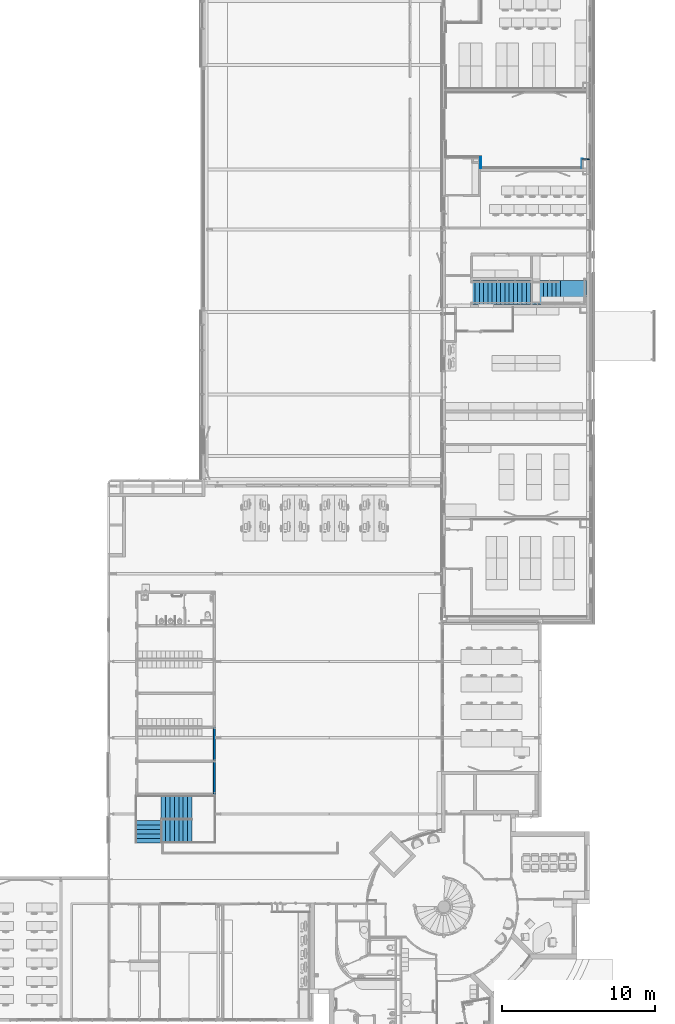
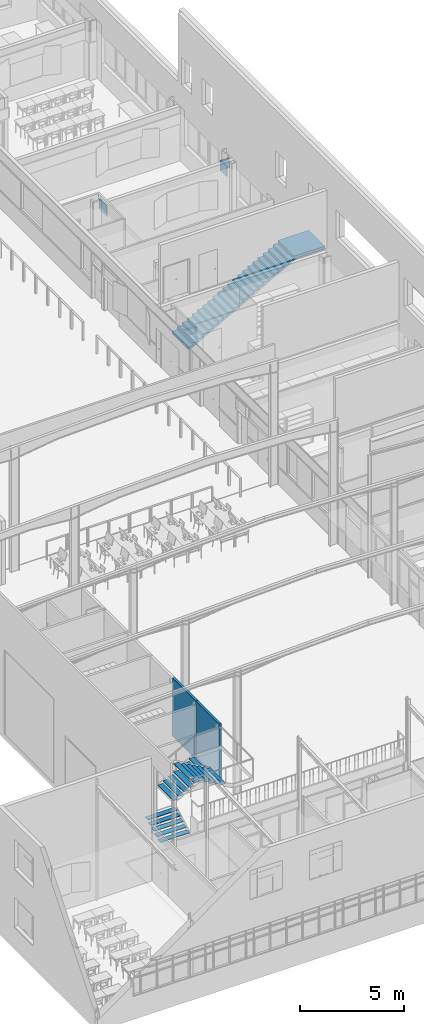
# One storey, part 68 of 137: 5 walls, 3 stair flights, 1 stair, 2 elements without a shape of their own.
"""IFC2X3 building model written with IfcOpenShell, lengths in centimetres."""

from ifc_helpers import new_model, entity, si_unit, converted_unit, derived_unit, direction, frame, frame_2d, origin, origin_2d_with_axis, place, context, subcontext, project, spatial, polyline, rectangle, outline, extrude, faceted_brep, material, layer, layer_set, layer_usage, type_object, element, aggregate, save


model = new_model("IFC2X3")

# Units and contexts
model_context = context("Model", 3, precision=0.001, world=origin(), true_north=direction((6.12303176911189e-17, 1.0)))
body_context = subcontext(model_context, "Body", "Model", "MODEL_VIEW")
ifc_project = project(units=[si_unit("LENGTHUNIT", "METRE", prefix="CENTI"), si_unit("AREAUNIT", "SQUARE_METRE"), si_unit("VOLUMEUNIT", "CUBIC_METRE"), converted_unit("PLANEANGLEUNIT", "DEGREE", entity("IfcRatioMeasure", 0.0174532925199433), si_unit("PLANEANGLEUNIT", "RADIAN"), dimensions=[0, 0, 0, 0, 0, 0, 0]), si_unit("MASSUNIT", "GRAM", prefix="KILO"), si_unit("TIMEUNIT", "SECOND"), si_unit("FREQUENCYUNIT", "HERTZ"), si_unit("THERMODYNAMICTEMPERATUREUNIT", "DEGREE_CELSIUS"), derived_unit("THERMALTRANSMITTANCEUNIT", [(si_unit("MASSUNIT", "GRAM", prefix="KILO"), 1), (si_unit("THERMODYNAMICTEMPERATUREUNIT", "KELVIN"), -1), (si_unit("TIMEUNIT", "SECOND"), -3)]), derived_unit("VOLUMETRICFLOWRATEUNIT", [(si_unit("LENGTHUNIT", "METRE"), 3), (si_unit("TIMEUNIT", "SECOND"), -1)]), si_unit("ELECTRICCURRENTUNIT", "AMPERE"), si_unit("ELECTRICVOLTAGEUNIT", "VOLT"), si_unit("POWERUNIT", "WATT"), si_unit("FORCEUNIT", "NEWTON", prefix="KILO"), si_unit("ILLUMINANCEUNIT", "LUX"), si_unit("LUMINOUSFLUXUNIT", "LUMEN"), si_unit("LUMINOUSINTENSITYUNIT", "CANDELA"), derived_unit("USERDEFINED", [(si_unit("MASSUNIT", "GRAM", prefix="KILO"), -1), (si_unit("LENGTHUNIT", "METRE"), -2), (si_unit("TIMEUNIT", "SECOND"), 3), (si_unit("LUMINOUSFLUXUNIT", "LUMEN"), 1)]), derived_unit("LINEARVELOCITYUNIT", [(si_unit("LENGTHUNIT", "METRE"), 1), (si_unit("TIMEUNIT", "SECOND"), -1)]), si_unit("PRESSUREUNIT", "PASCAL"), derived_unit("USERDEFINED", [(si_unit("LENGTHUNIT", "METRE"), -2), (si_unit("MASSUNIT", "GRAM", prefix="KILO"), 1), (si_unit("TIMEUNIT", "SECOND"), -2)])], contexts=[model_context])

# Site, building, storey
site_placement = place(None, frame((8.62739174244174, -249.285249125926, 0.0)))
site = spatial("IfcSite", under=ifc_project, at=site_placement, Name="Default", CompositionType="ELEMENT")
building_placement = place(site_placement, origin())
building = spatial("IfcBuilding", under=site, at=building_placement, CompositionType="ELEMENT")
storey_placement = place(building_placement, origin())
storey = spatial("IfcBuildingStorey", under=building, at=storey_placement, Name="RDC", CompositionType="ELEMENT", Elevation=-8.82465566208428e-11)

# Walls
ifc_material_1 = material(Name="Tôle/Doublage")
ifc_layer_1 = layer(ifc_material_1, 2.0)
ifc_material_2 = material(Name="Laine minérale")
ifc_layer_2 = layer(ifc_material_2, 9.5)
ifc_material_3 = material(Name="Plâtre_MU")
ifc_layer_3 = layer(ifc_material_3, 1.25)
ifc_layer_set_1 = layer_set([ifc_layer_1, ifc_layer_2, ifc_layer_3], Name="Mur de base:PLA 1.25 + ISO 9.5 + MET 4")
wall_type_1 = type_object("IfcWallType", Name="Mur de base:PLA 1.25 + ISO 9.5 + MET 4", PredefinedType="STANDARD", material=ifc_layer_set_1)
wall_1_placement = place(storey_placement, frame((1539.52982780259, 1708.48020806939, 0.0), z_axis=(0.0, 0.0, 1.0), x_axis=(0.0, -1.0, 0.0)))
element("IfcWall", 1, at=wall_1_placement, inside=storey, type_object=wall_type_1, Name="Mur de base:PLA 1.25 + ISO 9.5 + MET 4", ObjectType="Mur de base:PLA 1.25 + ISO 9.5 + MET 4", context=body_context, shape_type="Brep", body=[
    faceted_brep([(6.0, -6.37499999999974, 0.0), (211.999076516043, -6.37499999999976, 0.0), (224.749076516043, -6.37499999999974, 0.0), (224.749076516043, -6.37499999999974, 322.0), (224.749076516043, -6.37499999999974, 343.0), (0.0, -6.37499999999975, 343.0), (0.0, -6.37499999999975, 322.0), (6.0, -6.37499999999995, 322.0), (6.0, 6.37500000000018, 0.0), (6.0, 6.37500000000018, 322.0), (0.0, 6.37500000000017, 322.0), (0.0, 6.37500000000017, 343.0), (224.749076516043, 6.37500000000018, 343.0), (224.749076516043, 6.37500000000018, 0.0)], [[[0, 1, 2, 3, 4, 5, 6, 7]], [[8, 9, 10, 11, 12, 13]], [[4, 3, 2, 13, 12]], [[0, 7, 9, 8]], [[2, 1, 0, 8, 13]], [[5, 4, 12, 11]], [[6, 5, 11, 10]], [[6, 10, 9, 7]]]),
])
wall_2_placement = place(storey_placement, frame((1539.52982780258, 1708.48020806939, 0.0), z_axis=(0.0, 0.0, 1.0), x_axis=(0.0, 1.0, 0.0)))
element("IfcWall", 2, at=wall_2_placement, inside=storey, type_object=wall_type_1, Name="Mur de base:PLA 1.25 + ISO 9.5 + MET 4", ObjectType="Mur de base:PLA 1.25 + ISO 9.5 + MET 4", context=body_context, shape_type="Brep", body=[
    faceted_brep([(6.0, -6.37499999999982, 0.0), (228.0, -6.37499999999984, 0.0), (228.0, -6.37499999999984, 322.0), (222.0, -6.37499999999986, 322.0), (222.0, -6.37499999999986, 343.0), (0.0, -6.37499999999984, 343.0), (0.0, -6.37499999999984, 322.0), (6.0, -6.37499999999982, 322.0), (6.0, 6.3750000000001, 0.0), (6.0, 6.3750000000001, 322.0), (0.0, 6.37500000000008, 322.0), (0.0, 6.37500000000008, 343.0), (222.0, 6.37500000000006, 343.0), (222.0, 6.37500000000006, 322.0), (228.0, 6.37500000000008, 322.0), (228.0, 6.37500000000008, 0.0), (216.0, 6.37500000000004, 0.0)], [[[0, 1, 2, 3, 4, 5, 6, 7]], [[8, 9, 10, 11, 12, 13, 14, 15, 16]], [[0, 7, 9, 8]], [[2, 1, 15, 14]], [[1, 0, 8, 16, 15]], [[5, 4, 12, 11]], [[4, 3, 13, 12]], [[13, 3, 2, 14]], [[6, 5, 11, 10]], [[6, 10, 9, 7]]]),
])
ifc_layer_4 = layer(ifc_material_2, 3.0)
ifc_material_4 = material(Name="Panneau de grandes particules orientées")
ifc_layer_5 = layer(ifc_material_4, 2.0)
ifc_layer_set_2 = layer_set([ifc_layer_4, ifc_layer_5], Name="Mur de base:ACOUST 5")
ifc_layer_usage_1 = layer_usage(ifc_layer_set_2, "AXIS2", "NEGATIVE", 2.5)
wall_type_2 = type_object("IfcWallType", Name="Mur de base:ACOUST 5", PredefinedType="STANDARD", material=ifc_layer_set_2)
wall_3_placement = place(storey_placement, frame((3950.40482781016, 5656.9802081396, 220.0), z_axis=(0.0, 0.0, 1.0), x_axis=(0.0, -1.0, 0.0)))
element("IfcWallStandardCase", 3, at=wall_3_placement, inside=storey, type_object=wall_type_2, material=ifc_layer_usage_1, Name="Mur de base:ACOUST 5", ObjectType="Mur de base:ACOUST 5", context=body_context, shape_type="SweptSolid", body=[
    extrude(rectangle(XDim=61.9999999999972, YDim=5.0000000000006, at=frame_2d((30.9999999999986, 0.0), x_axis=(-1.0, 0.0))), origin(), (0.0, 0.0, 1.0), 60.0),
])
ifc_layer_6 = layer(ifc_material_2, 3.0)
ifc_material_5 = material(Name="Panneau de grandes particules orientées(1)")
ifc_layer_7 = layer(ifc_material_5, 2.0)
ifc_layer_set_3 = layer_set([ifc_layer_6, ifc_layer_7], Name="Mur de base:ACOUST panneaux fibres")
ifc_layer_usage_2 = layer_usage(ifc_layer_set_3, "AXIS2", "NEGATIVE", 2.5)
wall_type_3 = type_object("IfcWallType", Name="Mur de base:ACOUST panneaux fibres", PredefinedType="STANDARD", material=ifc_layer_set_3)
wall_4_placement = place(storey_placement, frame((3285.40482780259, 5594.9802081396, 220.0), z_axis=(0.0, 0.0, 1.0), x_axis=(0.0, 1.0, 0.0)))
element("IfcWallStandardCase", 4, at=wall_4_placement, inside=storey, type_object=wall_type_3, material=ifc_layer_usage_2, Name="Mur de base:ACOUST panneaux fibres", ObjectType="Mur de base:ACOUST panneaux fibres", context=body_context, shape_type="SweptSolid", body=[
    extrude(rectangle(XDim=72.4999999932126, YDim=4.99999999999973, at=frame_2d((36.2499999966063, 0.0), x_axis=(-1.0, 0.0))), origin(), (0.0, 0.0, 1.0), 60.0),
])
ifc_layer_usage_3 = layer_usage(ifc_layer_set_3, "AXIS2", "NEGATIVE", 2.5)
wall_5_placement = place(storey_placement, frame((3998.90482781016, 5654.4802081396, 220.0), z_axis=(0.0, 0.0, 1.0), x_axis=(-1.0, 0.0, 0.0)))
element("IfcWallStandardCase", 5, at=wall_5_placement, inside=storey, type_object=wall_type_3, material=ifc_layer_usage_3, Name="Mur de base:ACOUST panneaux fibres", ObjectType="Mur de base:ACOUST panneaux fibres", context=body_context, shape_type="SweptSolid", body=[
    extrude(rectangle(XDim=45.9999999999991, YDim=5.0000000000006, at=frame_2d((22.9999999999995, 0.0), x_axis=(-1.0, 0.0))), origin(), (0.0, 0.0, 1.0), 60.0),
])

# Stairs
stair_1_placement = place(storey_placement, origin())
stair_1 = element("IfcStair", 6, at=stair_1_placement, inside=storey, Name="Escalier:Monobloc", ObjectType="Escalier:Monobloc", ShapeType="NOTDEFINED")
ifc_material_6 = material(Name="Maçonnerie - Béton")
stair_2_placement = place(stair_1_placement, origin())
stair_2 = element("IfcStair", 7, at=stair_2_placement, material=ifc_material_6, Name="Escalier:Monobloc", ObjectType="Escalier:Monobloc", ShapeType="NOTDEFINED", context=body_context, shape_type="SweptSolid", body=[
    extrude(outline(polyline([(-162.42992424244, -286.082322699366), (-146.839015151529, -286.082322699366), (-146.839015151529, -258.082322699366), (-131.248106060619, -258.082322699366), (-131.248106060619, -230.082322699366), (-115.657196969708, -230.082322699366), (-115.657196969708, -202.082299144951), (-100.066287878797, -202.082299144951), (-100.066287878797, -174.082299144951), (-84.4753787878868, -174.082299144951), (-84.4753787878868, -146.082299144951), (-68.8844696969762, -146.082299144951), (-68.8844696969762, -118.082299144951), (-53.2935606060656, -118.082299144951), (-53.2935606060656, -90.0822991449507), (-37.7026515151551, -90.0822991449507), (-37.7026515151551, -62.0822991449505), (-22.1117424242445, -62.0822991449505), (-22.1117424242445, -34.0822991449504), (-6.52083333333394, -34.0822991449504), (-6.52083333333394, -6.08229914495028), (9.07007575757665, -6.08229914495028), (9.07007575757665, 21.9177008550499), (24.6609848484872, 21.9177008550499), (24.6609848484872, 49.9177244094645), (40.2518939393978, 49.9177244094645), (40.2518939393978, 77.9177244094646), (55.8428030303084, 77.9177244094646), (55.8428030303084, 105.917724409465), (71.4337121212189, 105.917724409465), (71.4337121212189, 133.917724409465), (87.0246212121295, 133.917724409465), (87.0246212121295, 161.917724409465), (102.61553030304, 161.917724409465), (102.61553030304, 189.917724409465), (118.206439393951, 189.917724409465), (118.206439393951, 217.917724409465), (133.797348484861, 217.917724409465), (133.797348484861, 245.917724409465), (149.388257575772, 245.917724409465), (149.388257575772, 273.917724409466), (164.979166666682, 273.917724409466), (164.979166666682, 444.917677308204), (149.979166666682, 444.917677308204), (149.979166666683, 291.423421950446), (-178.02083333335, -297.637849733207), (-178.02083333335, -314.082322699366), (-162.42992424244, -314.082322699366), (-162.42992424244, -286.082322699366)])), frame((3533.98715050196, 4702.98020813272, 178.020833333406), z_axis=(0.0, 1.0, 0.0), x_axis=(0.0, 0.0, 1.0)), (0.0, 0.0, 1.0), 155.00000001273),
])
aggregate(stair_1, [stair_2])

# Stair, stair flights
stair_3_placement = place(storey_placement, origin())
stair_3 = element("IfcStair", 8, at=stair_3_placement, inside=storey, Name="Escalier assemblé:Escalier", ObjectType="Escalier assemblé:Escalier métallique", ShapeType="NOTDEFINED")
ifc_material_7 = material(Name="Acier, 45-345")
stair_flight_1_placement = place(stair_3_placement, origin())
stair_flight_1 = element("IfcStairFlight", 9, at=stair_flight_1_placement, material=ifc_material_7, Name="Escalier assemblé:Escalier:1434872 Run 1", ObjectType="Escalier assemblé:Escalier métallique", NumberOfRiser=6, NumberOfTreads=5, RiserHeight=0.511512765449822, TreadLength=0.951443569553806, context=body_context, shape_type="SweptSolid", body=[
    extrude(rectangle(XDim=28.9999999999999, YDim=163.049342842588, at=origin_2d_with_axis()), frame((1108.42949922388, 1187.00020806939, 12.5909090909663), z_axis=(0.0, 0.0, 1.0), x_axis=(0.0, -1.0, 0.0)), (0.0, 0.0, 1.0), 3.0),
    extrude(rectangle(XDim=28.9999999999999, YDim=163.049342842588, at=origin_2d_with_axis()), frame((1108.42949922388, 1216.00020806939, 28.1818181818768), z_axis=(0.0, 0.0, 1.0), x_axis=(0.0, -1.0, 0.0)), (0.0, 0.0, 1.0), 3.0),
    extrude(rectangle(XDim=28.9999999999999, YDim=163.049342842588, at=origin_2d_with_axis()), frame((1108.42949922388, 1245.00020806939, 43.7727272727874), z_axis=(0.0, 0.0, 1.0), x_axis=(0.0, -1.0, 0.0)), (0.0, 0.0, 1.0), 3.0),
    extrude(rectangle(XDim=28.9999999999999, YDim=163.049342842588, at=origin_2d_with_axis()), frame((1108.42949922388, 1274.00020806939, 59.363636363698), z_axis=(0.0, 0.0, 1.0), x_axis=(0.0, -1.0, 0.0)), (0.0, 0.0, 1.0), 3.0),
    extrude(rectangle(XDim=28.9999999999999, YDim=163.049342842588, at=origin_2d_with_axis()), frame((1108.42949922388, 1303.00020806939, 74.9545454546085), z_axis=(0.0, 0.0, 1.0), x_axis=(0.0, -1.0, 0.0)), (0.0, 0.0, 1.0), 3.00000000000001),
])
stair_flight_2_placement = place(stair_3_placement, origin())
stair_flight_2 = element("IfcStairFlight", 10, at=stair_flight_2_placement, material=ifc_material_7, Name="Escalier assemblé:Escalier:1434872 Run 2", ObjectType="Escalier assemblé:Escalier métallique", NumberOfRiser=8, NumberOfTreads=7, RiserHeight=0.511512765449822, TreadLength=0.951443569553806, context=body_context, shape_type="SweptSolid", body=[
    extrude(rectangle(XDim=28.9999999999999, YDim=150.0, at=origin_2d_with_axis()), frame((1204.40482780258, 1404.50020806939, 106.13636363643), z_axis=(0.0, 0.0, 1.0), x_axis=(-1.0, 0.0, 0.0)), (0.0, 0.0, 1.0), 2.99999999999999),
    extrude(rectangle(XDim=28.9999999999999, YDim=150.0, at=origin_2d_with_axis()), frame((1233.40482780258, 1404.50020806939, 121.72727272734), z_axis=(0.0, 0.0, 1.0), x_axis=(-1.0, 0.0, 0.0)), (0.0, 0.0, 1.0), 2.99999999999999),
    extrude(rectangle(XDim=28.9999999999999, YDim=150.0, at=origin_2d_with_axis()), frame((1262.40482780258, 1404.50020806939, 137.318181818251), z_axis=(0.0, 0.0, 1.0), x_axis=(-1.0, 0.0, 0.0)), (0.0, 0.0, 1.0), 2.99999999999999),
    extrude(rectangle(XDim=28.9999999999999, YDim=150.0, at=origin_2d_with_axis()), frame((1291.40482780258, 1404.50020806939, 152.909090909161), z_axis=(0.0, 0.0, 1.0), x_axis=(-1.0, 0.0, 0.0)), (0.0, 0.0, 1.0), 2.99999999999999),
    extrude(rectangle(XDim=28.9999999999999, YDim=150.0, at=frame_2d((-2.16715534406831e-13, 0.0), x_axis=(1.0, 0.0))), frame((1320.40482780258, 1404.50020806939, 168.500000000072), z_axis=(0.0, 0.0, 1.0), x_axis=(-1.0, 0.0, 0.0)), (0.0, 0.0, 1.0), 2.99999999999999),
    extrude(rectangle(XDim=28.9999999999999, YDim=150.0, at=origin_2d_with_axis()), frame((1349.40482780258, 1404.50020806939, 184.090909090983), z_axis=(0.0, 0.0, 1.0), x_axis=(-1.0, 0.0, 0.0)), (0.0, 0.0, 1.0), 2.99999999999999),
    extrude(rectangle(XDim=28.9999999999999, YDim=150.0, at=origin_2d_with_axis()), frame((1378.40482780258, 1404.50020806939, 199.681818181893), z_axis=(0.0, 0.0, 1.0), x_axis=(-1.0, 0.0, 0.0)), (0.0, 0.0, 1.0), 2.99999999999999),
])
stair_flight_3_placement = place(stair_3_placement, origin())
stair_flight_3 = element("IfcStairFlight", 11, at=stair_flight_3_placement, material=ifc_material_7, Name="Escalier assemblé:Escalier:1434872 Run 3", ObjectType="Escalier assemblé:Escalier métallique", NumberOfRiser=8, NumberOfTreads=7, RiserHeight=0.511512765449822, TreadLength=0.951443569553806, context=body_context, shape_type="SweptSolid", body=[
    extrude(rectangle(XDim=28.9999999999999, YDim=150.0, at=frame_2d((2.16715534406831e-13, 0.0), x_axis=(1.0, 0.0))), frame((1378.40482780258, 1250.50020806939, 230.863636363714)), (0.0, 0.0, 1.0), 2.99999999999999),
    extrude(rectangle(XDim=28.9999999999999, YDim=150.0, at=origin_2d_with_axis()), frame((1349.40482780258, 1250.50020806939, 246.454545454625)), (0.0, 0.0, 1.0), 2.99999999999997),
    extrude(rectangle(XDim=28.9999999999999, YDim=150.0, at=origin_2d_with_axis()), frame((1320.40482780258, 1250.50020806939, 262.045454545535)), (0.0, 0.0, 1.0), 2.99999999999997),
    extrude(rectangle(XDim=28.9999999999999, YDim=150.0, at=origin_2d_with_axis()), frame((1291.40482780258, 1250.50020806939, 277.636363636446)), (0.0, 0.0, 1.0), 2.99999999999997),
    extrude(rectangle(XDim=28.9999999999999, YDim=150.0, at=origin_2d_with_axis()), frame((1262.40482780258, 1250.50020806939, 293.227272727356)), (0.0, 0.0, 1.0), 2.99999999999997),
    extrude(rectangle(XDim=28.9999999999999, YDim=150.0, at=origin_2d_with_axis()), frame((1233.40482780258, 1250.50020806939, 308.818181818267)), (0.0, 0.0, 1.0), 2.99999999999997),
    extrude(rectangle(XDim=28.9999999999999, YDim=150.0, at=origin_2d_with_axis()), frame((1204.40482780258, 1250.50020806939, 324.409090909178)), (0.0, 0.0, 1.0), 2.99999999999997),
])
aggregate(stair_3, [stair_flight_1, stair_flight_2, stair_flight_3])

save(model, "model.ifc")
